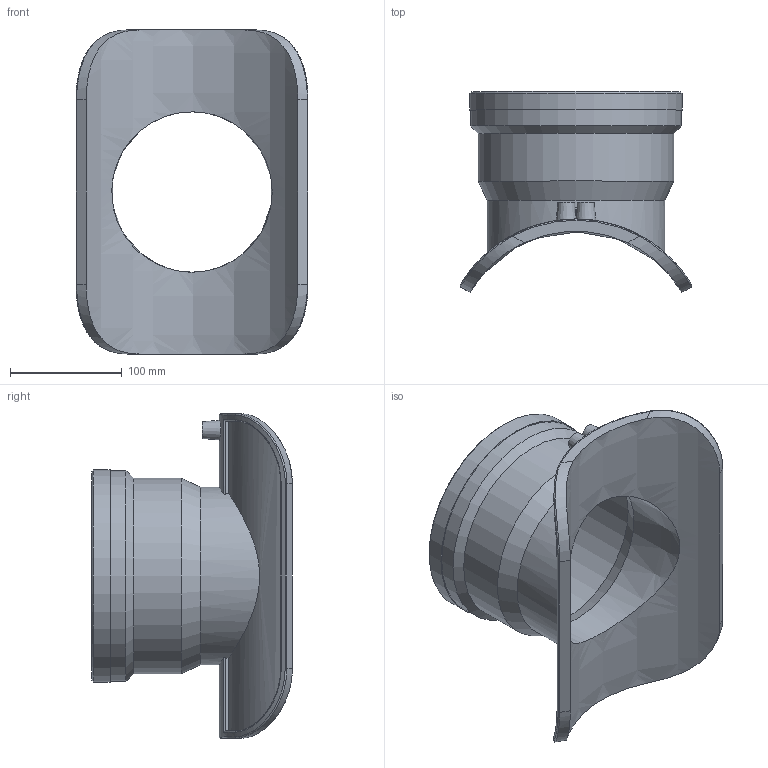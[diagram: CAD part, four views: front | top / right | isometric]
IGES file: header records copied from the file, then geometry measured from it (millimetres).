
Global section: file name: 5758BPV4080060.ipt; native system: Autodesk Inventor 2019; preprocessor: unknown; author: 12HКирилл; date: 20210830.100826; units: inch
Bounding box: 207.21 x 179.4 x 289.56 mm (x, y, z)
Volume: 1041364.2 mm3; surface area: 261970.2 mm2
Topology: 1 solids, 1 shells, 83 faces, 200 edges, 127 vertices
Faces by surface type: revolution 24, plane 23, cylinder 22, bspline 8, cone 6
Full cylindrical faces by diameter (mm): 4 x2, 158.636 x1, 159.1 x1, 174.546 x1, 188.092 x1, 189.992 x1
